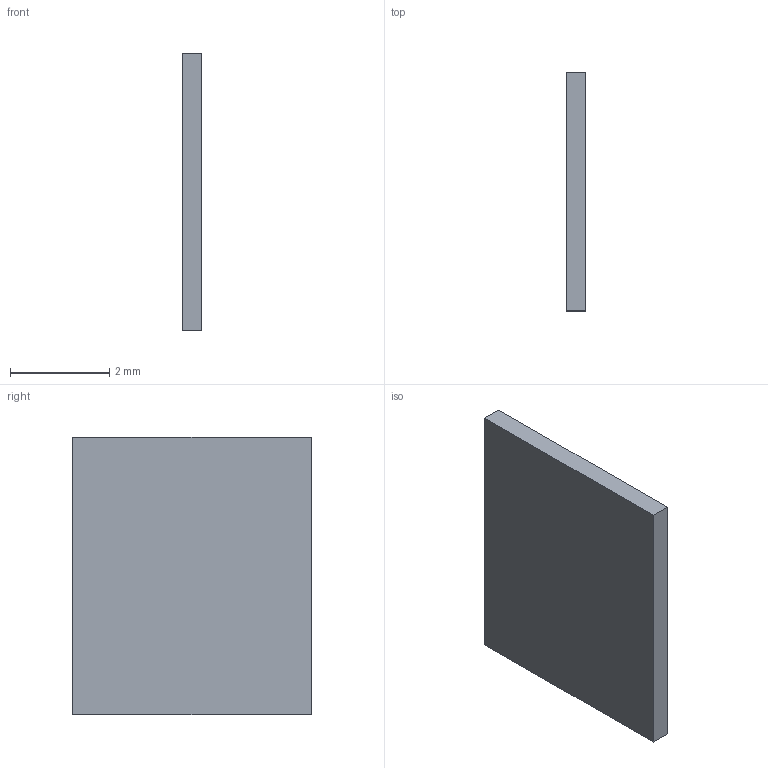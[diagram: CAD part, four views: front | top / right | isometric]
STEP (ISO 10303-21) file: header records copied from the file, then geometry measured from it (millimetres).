
FILE_DESCRIPTION(/* description */ (''),/* implementation_level */ '2;1');
FILE_NAME(/* name */ 'C28_R3_Volume_Up_Seat_Shim_0p40.step',/* time_stamp */ '2026-09-10T17:49:57-07:00',/* author */ (''),/* organization */ (''),/* preprocessor_version */ 'ST-DEVELOPER v20.1',/* originating_system */ 'Autodesk Translation Framework v15.8.0.0',/* authorisation */ '');
FILE_SCHEMA (('AUTOMOTIVE_DESIGN { 1 0 10303 214 3 1 1 }'));
Length unit declared in the file: millimetre
Products named in the file (1): 2026-09-10-17-49-57-390
Bounding box: 0.4 x 4.8 x 5.6 mm (x, y, z)
Volume: 10.8 mm3; surface area: 62.1 mm2
Topology: 1 solids, 1 shells, 6 faces, 12 edges, 8 vertices
Faces by surface type: plane 6
Entity records: 189 total; most frequent: CARTESIAN_POINT 27, DIRECTION 26, ORIENTED_EDGE 24, LINE 12, VECTOR 12, EDGE_CURVE 12, VERTEX_POINT 8, AXIS2_PLACEMENT_3D 7
